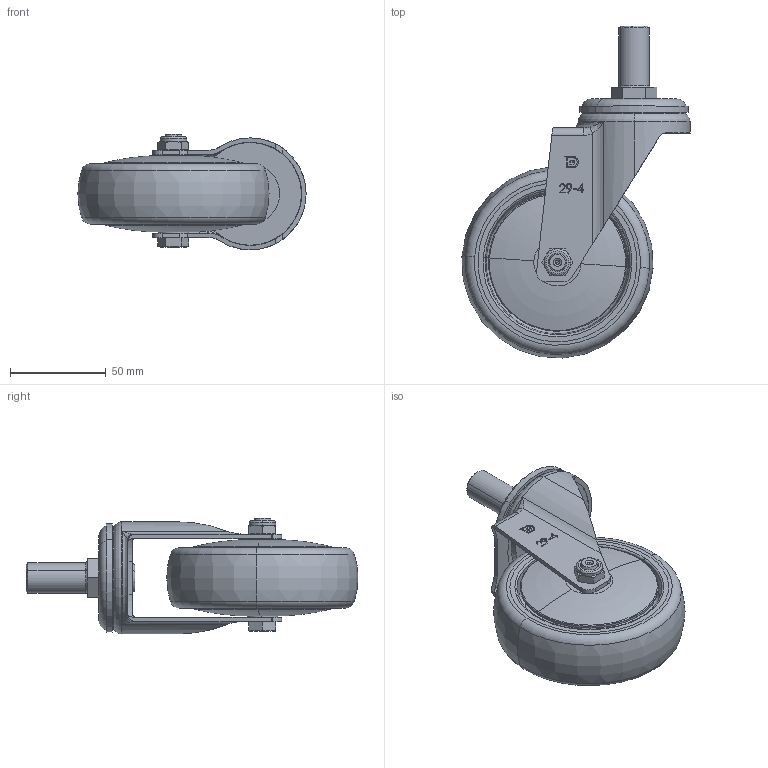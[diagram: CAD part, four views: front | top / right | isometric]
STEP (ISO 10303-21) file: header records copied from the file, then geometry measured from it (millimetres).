
FILE_DESCRIPTION (( 'STEP AP203' ), '1' );
FILE_NAME ('4112904002017.STEP', '2024-08-09T07:45:30', ( '' ), ( '' ), 'SwSTEP 2.0', 'SolidWorks 2019', '' );
FILE_SCHEMA (( 'CONFIG_CONTROL_DESIGN' ));
Length unit declared in the file: millimetre
Products named in the file (8): 29系列絲扣4''''腳架上珠碗-展示用; 4201153208 4''''、5''''儀器輪牙心-電鍍 8分之5''''-11牙x32L; 245020900003 尼龍螺帽  3 8''''(對邊14x7L); 245042402001 墊圈-電鍍 23x15.2x2.3t_084048; 242020954001 4''''.5''''儀器.高級活動用車心 20240124A8; 4112904002017; 1235040046 經典PPR輪組 4''''(100x31 珠光深灰6202弧+10大蓋; 29系列絲扣4''''腳架-展示用
Assembly tree (7 placements, depth 2):
  4112904002017
    29系列絲扣4''''腳架-展示用
    29系列絲扣4''''腳架上珠碗-展示用
    245042402001 墊圈-電鍍 23x15.2x2.3t_084048
    242020954001 4''''.5''''儀器.高級活動用車心 20240124A8
    245020900003 尼龍螺帽  3 8''''(對邊14x7L)
    4201153208 4''''、5''''儀器輪牙心-電鍍 8分之5''''-11牙x32L
    1235040046 經典PPR輪組 4''''(100x31 珠光深灰6202弧+10大蓋
Bounding box: 119.15 x 173.32 x 60.45 mm (x, y, z)
Volume: 216359.3 mm3; surface area: 121281.9 mm2
Topology: 23 solids, 23 shells, 491 faces, 1134 edges, 713 vertices
Faces by surface type: plane 156, cylinder 134, torus 90, cone 62, sphere 26, bspline 23
Entity records: 15674 total; most frequent: CARTESIAN_POINT 3837, DIRECTION 2470, ORIENTED_EDGE 2140, EDGE_CURVE 1070, AXIS2_PLACEMENT_3D 1026, VERTEX_POINT 677, EDGE_LOOP 567, CIRCLE 548
